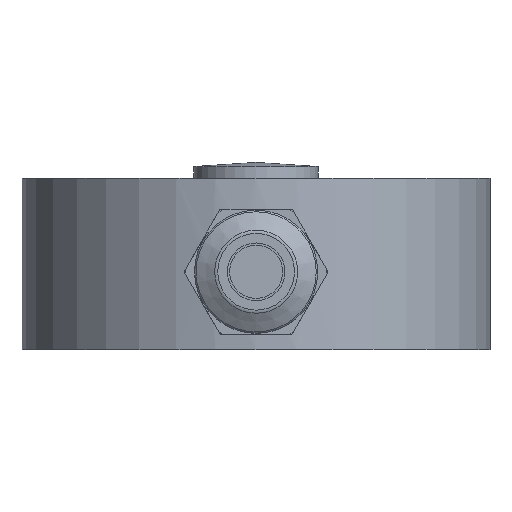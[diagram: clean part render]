
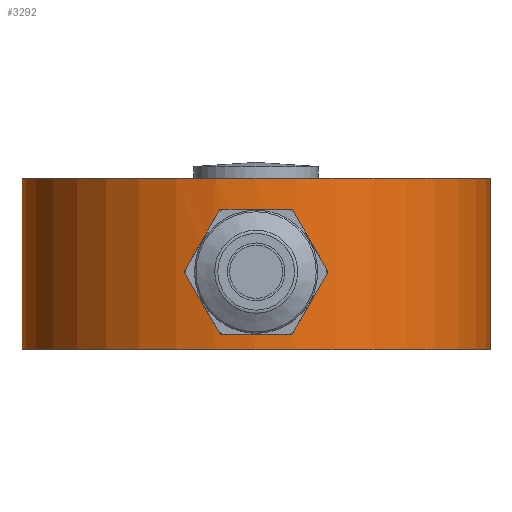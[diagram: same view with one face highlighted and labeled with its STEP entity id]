
A CAD part, left-side view. The second image highlights one B-rep face of the part: STEP entity #3292.
In plain terms, the highlighted cylindrical face has radius 15 mm (diameter 30 mm), a full revolution.
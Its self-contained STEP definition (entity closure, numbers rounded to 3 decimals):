
#181=B_SPLINE_CURVE_WITH_KNOTS('',3,(#7374,#7375,#7376,#7377),
 .UNSPECIFIED.,.F.,.F.,(4,4),(3.135,3.136),
 .UNSPECIFIED.);
#182=B_SPLINE_CURVE_WITH_KNOTS('',3,(#7379,#7380,#7381,#7382,#7383,#7384,
#7385,#7386,#7387,#7388,#7389,#7390,#7391,#7392,#7393,#7394,#7395,#7396,
#7397,#7398,#7399,#7400,#7401,#7402,#7403,#7404,#7405,#7406,#7407,#7408),
 .UNSPECIFIED.,.F.,.F.,(4,2,2,2,2,2,2,2,2,2,2,2,2,2,4),(3.136,
3.141,3.19,3.278,3.386,3.509,
3.602,3.648,3.688,3.745,3.82,
3.941,4.063,4.138,4.181),
 .UNSPECIFIED.);
#183=B_SPLINE_CURVE_WITH_KNOTS('',3,(#7410,#7411,#7412,#7413),
 .UNSPECIFIED.,.F.,.F.,(4,4),(2.09,2.091),
 .UNSPECIFIED.);
#184=B_SPLINE_CURVE_WITH_KNOTS('',3,(#7419,#7420,#7421,#7422,#7423,#7424,
#7425,#7426,#7427,#7428,#7429,#7430,#7431,#7432,#7433,#7434,#7435,#7436,
#7437,#7438,#7439,#7440,#7441,#7442,#7443,#7444,#7445,#7446),
 .UNSPECIFIED.,.F.,.F.,(4,2,2,2,2,2,2,2,2,2,2,2,2,4),(2.091,
2.139,2.218,2.342,2.465,2.557,
2.603,2.644,2.702,2.779,2.9,
3.023,3.094,3.135),.UNSPECIFIED.);
#415=FACE_OUTER_BOUND('',#626,.T.);
#626=EDGE_LOOP('',(#2492,#2493,#2494,#2495,#2496,#2497,#2498,#2499,#2500,
#2501,#2502,#2503));
#828=LINE('',#7372,#996);
#829=LINE('',#7415,#997);
#996=VECTOR('',#4225,15.);
#997=VECTOR('',#4226,15.);
#1118=CIRCLE('',#3575,15.);
#1119=CIRCLE('',#3576,15.);
#1120=CIRCLE('',#3578,15.);
#1121=CIRCLE('',#3579,15.);
#1419=VERTEX_POINT('',#7366);
#1420=VERTEX_POINT('',#7367);
#1421=VERTEX_POINT('',#7371);
#1422=VERTEX_POINT('',#7373);
#1423=VERTEX_POINT('',#7378);
#1424=VERTEX_POINT('',#7409);
#1425=VERTEX_POINT('',#7414);
#1426=VERTEX_POINT('',#7416);
#1845=EDGE_CURVE('',#1419,#1420,#1118,.T.);
#1846=EDGE_CURVE('',#1420,#1419,#1119,.T.);
#1847=EDGE_CURVE('',#1420,#1421,#828,.T.);
#1848=EDGE_CURVE('',#1421,#1422,#181,.T.);
#1849=EDGE_CURVE('',#1422,#1423,#182,.T.);
#1850=EDGE_CURVE('',#1423,#1424,#183,.T.);
#1851=EDGE_CURVE('',#1424,#1425,#829,.T.);
#1852=EDGE_CURVE('',#1425,#1426,#1120,.T.);
#1853=EDGE_CURVE('',#1426,#1425,#1121,.T.);
#1854=EDGE_CURVE('',#1424,#1421,#184,.T.);
#2492=ORIENTED_EDGE('',*,*,#1845,.F.);
#2493=ORIENTED_EDGE('',*,*,#1846,.F.);
#2494=ORIENTED_EDGE('',*,*,#1847,.T.);
#2495=ORIENTED_EDGE('',*,*,#1848,.T.);
#2496=ORIENTED_EDGE('',*,*,#1849,.T.);
#2497=ORIENTED_EDGE('',*,*,#1850,.T.);
#2498=ORIENTED_EDGE('',*,*,#1851,.T.);
#2499=ORIENTED_EDGE('',*,*,#1852,.T.);
#2500=ORIENTED_EDGE('',*,*,#1853,.T.);
#2501=ORIENTED_EDGE('',*,*,#1851,.F.);
#2502=ORIENTED_EDGE('',*,*,#1854,.T.);
#2503=ORIENTED_EDGE('',*,*,#1847,.F.);
#3142=CYLINDRICAL_SURFACE('',#3577,15.);
#3292=ADVANCED_FACE('',(#415),#3142,.T.);
#3575=AXIS2_PLACEMENT_3D('',#7368,#4219,#4220);
#3576=AXIS2_PLACEMENT_3D('',#7369,#4221,#4222);
#3577=AXIS2_PLACEMENT_3D('',#7370,#4223,#4224);
#3578=AXIS2_PLACEMENT_3D('',#7417,#4227,#4228);
#3579=AXIS2_PLACEMENT_3D('',#7418,#4229,#4230);
#4219=DIRECTION('center_axis',(0.,0.,1.));
#4220=DIRECTION('ref_axis',(1.,0.,0.));
#4221=DIRECTION('center_axis',(0.,0.,1.));
#4222=DIRECTION('ref_axis',(1.,0.,0.));
#4223=DIRECTION('center_axis',(0.,0.,1.));
#4224=DIRECTION('ref_axis',(1.,0.,0.));
#4225=DIRECTION('',(0.,0.,-1.));
#4226=DIRECTION('',(0.,0.,-1.));
#4227=DIRECTION('center_axis',(0.,0.,1.));
#4228=DIRECTION('ref_axis',(1.,0.,0.));
#4229=DIRECTION('center_axis',(0.,0.,1.));
#4230=DIRECTION('ref_axis',(1.,0.,0.));
#7366=CARTESIAN_POINT('',(15.,0.,11.));
#7367=CARTESIAN_POINT('',(-15.,0.,11.));
#7368=CARTESIAN_POINT('Origin',(0.,0.,11.));
#7369=CARTESIAN_POINT('Origin',(0.,0.,11.));
#7370=CARTESIAN_POINT('Origin',(0.,0.,5.5));
#7371=CARTESIAN_POINT('',(-15.,0.,8.351));
#7372=CARTESIAN_POINT('',(-15.,0.,5.5));
#7373=CARTESIAN_POINT('',(-15.,-0.008,8.351));
#7374=CARTESIAN_POINT('Ctrl Pts',(-15.,0.,8.351));
#7375=CARTESIAN_POINT('Ctrl Pts',(-15.,-0.003,8.351));
#7376=CARTESIAN_POINT('Ctrl Pts',(-15.,-0.005,
8.351));
#7377=CARTESIAN_POINT('Ctrl Pts',(-15.,-0.008,
8.351));
#7378=CARTESIAN_POINT('',(-15.,-0.008,1.621));
#7379=CARTESIAN_POINT('Ctrl Pts',(-15.,-0.008,
8.351));
#7380=CARTESIAN_POINT('Ctrl Pts',(-15.,-0.023,
8.351));
#7381=CARTESIAN_POINT('Ctrl Pts',(-15.,-0.038,
8.351));
#7382=CARTESIAN_POINT('Ctrl Pts',(-14.999,-0.217,
8.349));
#7383=CARTESIAN_POINT('Ctrl Pts',(-14.996,-0.381,
8.335));
#7384=CARTESIAN_POINT('Ctrl Pts',(-14.98,-0.831,
8.262));
#7385=CARTESIAN_POINT('Ctrl Pts',(-14.961,-1.112,8.177));
#7386=CARTESIAN_POINT('Ctrl Pts',(-14.906,-1.706,7.905));
#7387=CARTESIAN_POINT('Ctrl Pts',(-14.868,-2.004,7.699));
#7388=CARTESIAN_POINT('Ctrl Pts',(-14.784,-2.551,7.158));
#7389=CARTESIAN_POINT('Ctrl Pts',(-14.742,-2.778,6.818));
#7390=CARTESIAN_POINT('Ctrl Pts',(-14.685,-3.061,6.156));
#7391=CARTESIAN_POINT('Ctrl Pts',(-14.667,-3.143,5.856));
#7392=CARTESIAN_POINT('Ctrl Pts',(-14.653,-3.21,5.399));
#7393=CARTESIAN_POINT('Ctrl Pts',(-14.65,-3.223,5.247));
#7394=CARTESIAN_POINT('Ctrl Pts',(-14.648,-3.231,4.96));
#7395=CARTESIAN_POINT('Ctrl Pts',(-14.649,-3.228,4.825));
#7396=CARTESIAN_POINT('Ctrl Pts',(-14.654,-3.203,4.501));
#7397=CARTESIAN_POINT('Ctrl Pts',(-14.66,-3.175,4.312));
#7398=CARTESIAN_POINT('Ctrl Pts',(-14.681,-3.076,3.885));
#7399=CARTESIAN_POINT('Ctrl Pts',(-14.698,-2.996,3.648));
#7400=CARTESIAN_POINT('Ctrl Pts',(-14.753,-2.719,3.059));
#7401=CARTESIAN_POINT('Ctrl Pts',(-14.796,-2.484,2.732));
#7402=CARTESIAN_POINT('Ctrl Pts',(-14.883,-1.893,2.183));
#7403=CARTESIAN_POINT('Ctrl Pts',(-14.925,-1.545,1.971));
#7404=CARTESIAN_POINT('Ctrl Pts',(-14.973,-0.933,1.742));
#7405=CARTESIAN_POINT('Ctrl Pts',(-14.986,-0.691,
1.682));
#7406=CARTESIAN_POINT('Ctrl Pts',(-14.998,-0.301,
1.631));
#7407=CARTESIAN_POINT('Ctrl Pts',(-15.,-0.154,
1.621));
#7408=CARTESIAN_POINT('Ctrl Pts',(-15.,-0.008,
1.621));
#7409=CARTESIAN_POINT('',(-15.,0.,1.621));
#7410=CARTESIAN_POINT('Ctrl Pts',(-15.,-0.008,
1.621));
#7411=CARTESIAN_POINT('Ctrl Pts',(-15.,-0.005,
1.621));
#7412=CARTESIAN_POINT('Ctrl Pts',(-15.,-0.003,
1.621));
#7413=CARTESIAN_POINT('Ctrl Pts',(-15.,0.,1.621));
#7414=CARTESIAN_POINT('',(-15.,0.,0.));
#7415=CARTESIAN_POINT('',(-15.,0.,5.5));
#7416=CARTESIAN_POINT('',(15.,0.,0.));
#7417=CARTESIAN_POINT('Origin',(0.,0.,0.));
#7418=CARTESIAN_POINT('Origin',(0.,0.,0.));
#7419=CARTESIAN_POINT('Ctrl Pts',(-15.,0.,1.621));
#7420=CARTESIAN_POINT('Ctrl Pts',(-15.,0.16,1.622));
#7421=CARTESIAN_POINT('Ctrl Pts',(-14.997,0.319,1.633));
#7422=CARTESIAN_POINT('Ctrl Pts',(-14.984,0.736,1.694));
#7423=CARTESIAN_POINT('Ctrl Pts',(-14.969,0.989,1.762));
#7424=CARTESIAN_POINT('Ctrl Pts',(-14.918,1.614,2.016));
#7425=CARTESIAN_POINT('Ctrl Pts',(-14.874,1.959,2.242));
#7426=CARTESIAN_POINT('Ctrl Pts',(-14.786,2.541,2.821));
#7427=CARTESIAN_POINT('Ctrl Pts',(-14.743,2.768,3.163));
#7428=CARTESIAN_POINT('Ctrl Pts',(-14.687,3.049,3.824));
#7429=CARTESIAN_POINT('Ctrl Pts',(-14.67,3.13,4.122));
#7430=CARTESIAN_POINT('Ctrl Pts',(-14.655,3.197,4.577));
#7431=CARTESIAN_POINT('Ctrl Pts',(-14.653,3.21,4.73));
#7432=CARTESIAN_POINT('Ctrl Pts',(-14.651,3.217,5.019));
#7433=CARTESIAN_POINT('Ctrl Pts',(-14.652,3.214,5.155));
#7434=CARTESIAN_POINT('Ctrl Pts',(-14.657,3.188,5.484));
#7435=CARTESIAN_POINT('Ctrl Pts',(-14.664,3.159,5.676));
#7436=CARTESIAN_POINT('Ctrl Pts',(-14.686,3.055,6.115));
#7437=CARTESIAN_POINT('Ctrl Pts',(-14.704,2.969,6.359));
#7438=CARTESIAN_POINT('Ctrl Pts',(-14.76,2.679,6.952));
#7439=CARTESIAN_POINT('Ctrl Pts',(-14.804,2.439,7.276));
#7440=CARTESIAN_POINT('Ctrl Pts',(-14.89,1.838,7.817));
#7441=CARTESIAN_POINT('Ctrl Pts',(-14.931,1.487,8.024));
#7442=CARTESIAN_POINT('Ctrl Pts',(-14.976,0.88,8.24));
#7443=CARTESIAN_POINT('Ctrl Pts',(-14.988,0.649,8.295));
#7444=CARTESIAN_POINT('Ctrl Pts',(-14.998,0.276,8.342));
#7445=CARTESIAN_POINT('Ctrl Pts',(-15.,0.138,8.351));
#7446=CARTESIAN_POINT('Ctrl Pts',(-15.,0.,8.351));
